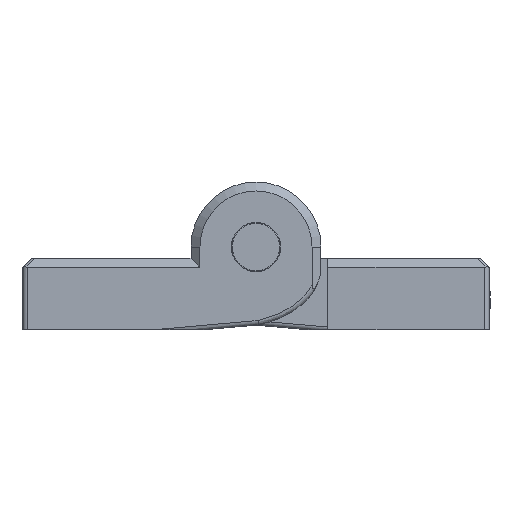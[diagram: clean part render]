
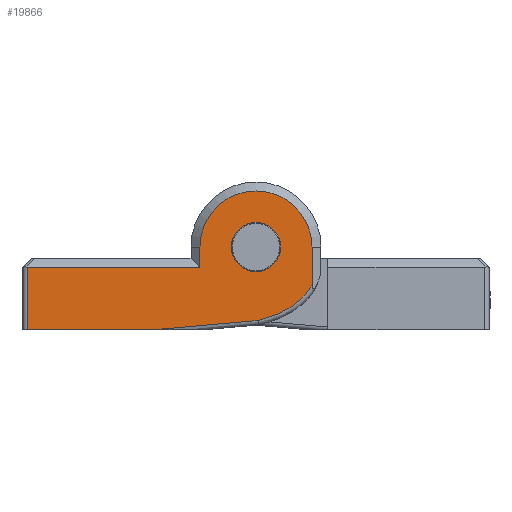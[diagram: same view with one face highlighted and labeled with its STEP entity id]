
A CAD part, front view. The second image highlights one B-rep face of the part: STEP entity #19866.
In plain terms, the highlighted planar face has unit normal (0, -1, 0).
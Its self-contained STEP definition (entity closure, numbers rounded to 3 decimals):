
#411 = ORIENTED_EDGE ( 'NONE', *, *, #7816, .T. ) ;
#1218 = EDGE_CURVE ( 'NONE', #23892, #16031, #10456, .T. ) ;
#1735 = DIRECTION ( 'NONE',  ( -1., 0., 0. ) ) ;
#1832 = EDGE_CURVE ( 'NONE', #17360, #10569, #11537, .T. ) ;
#2003 = CARTESIAN_POINT ( 'NONE',  ( -23.704, -45., -6.285 ) ) ;
#2100 = VERTEX_POINT ( 'NONE', #7482 ) ;
#2113 = LINE ( 'NONE', #6644, #19933 ) ;
#2803 = VERTEX_POINT ( 'NONE', #14952 ) ;
#3068 = CARTESIAN_POINT ( 'NONE',  ( -26., -45., 1.25 ) ) ;
#4032 = CARTESIAN_POINT ( 'NONE',  ( -22.861, -45., -5.892 ) ) ;
#4202 = DIRECTION ( 'NONE',  ( 0., 0., -1. ) ) ;
#4493 = CARTESIAN_POINT ( 'NONE',  ( -19.75, -45., 1.25 ) ) ;
#4578 = CARTESIAN_POINT ( 'NONE',  ( -25.74, -45., -6.941 ) ) ;
#5073 = DIRECTION ( 'NONE',  ( 0., 0., 1. ) ) ;
#5545 = VERTEX_POINT ( 'NONE', #21345 ) ;
#5679 = CARTESIAN_POINT ( 'NONE',  ( -52., -45., -1. ) ) ;
#6002 = CARTESIAN_POINT ( 'NONE',  ( -26., -45., -1.5 ) ) ;
#6056 = CARTESIAN_POINT ( 'NONE',  ( -21.788, -45., -5.259 ) ) ;
#6096 = AXIS2_PLACEMENT_3D ( 'NONE', #3068, #17045, #5073 ) ;
#6257 = CARTESIAN_POINT ( 'NONE',  ( -26., -45., 1.25 ) ) ;
#6644 = CARTESIAN_POINT ( 'NONE',  ( -52., -45., -8. ) ) ;
#6657 = AXIS2_PLACEMENT_3D ( 'NONE', #21859, #9967, #23805 ) ;
#6753 = VECTOR ( 'NONE', #14538, 1000. ) ;
#7076 = DIRECTION ( 'NONE',  ( 0., -1., 0. ) ) ;
#7100 = VECTOR ( 'NONE', #7319, 1000. ) ;
#7231 = ORIENTED_EDGE ( 'NONE', *, *, #22465, .T. ) ;
#7319 = DIRECTION ( 'NONE',  ( 0., 0., -1. ) ) ;
#7482 = CARTESIAN_POINT ( 'NONE',  ( -19.75, -45., -2.95 ) ) ;
#7601 = ORIENTED_EDGE ( 'NONE', *, *, #22314, .F. ) ;
#7816 = EDGE_CURVE ( 'NONE', #16031, #5545, #2113, .T. ) ;
#8089 = CARTESIAN_POINT ( 'NONE',  ( -20.63, -45., -4.228 ) ) ;
#8634 = DIRECTION ( 'NONE',  ( 0., 0., 1. ) ) ;
#8768 = CARTESIAN_POINT ( 'NONE',  ( -32.25, -45., -1. ) ) ;
#9253 = LINE ( 'NONE', #4493, #14541 ) ;
#9380 = ORIENTED_EDGE ( 'NONE', *, *, #9759, .T. ) ;
#9759 = EDGE_CURVE ( 'NONE', #10569, #10619, #12444, .T. ) ;
#9865 = DIRECTION ( 'NONE',  ( 0., -1., 0. ) ) ;
#9967 = DIRECTION ( 'NONE',  ( 0., -1., 0. ) ) ;
#10098 = CARTESIAN_POINT ( 'NONE',  ( -20.055, -45., -3.493 ) ) ;
#10219 = DIRECTION ( 'NONE',  ( 0., 0., 1. ) ) ;
#10456 = LINE ( 'NONE', #16177, #12338 ) ;
#10569 = VERTEX_POINT ( 'NONE', #10632 ) ;
#10619 = VERTEX_POINT ( 'NONE', #8768 ) ;
#10632 = CARTESIAN_POINT ( 'NONE',  ( -32.25, -45., 1.25 ) ) ;
#10794 = CARTESIAN_POINT ( 'NONE',  ( -25.775, -45., -6.944 ) ) ;
#10998 = PLANE ( 'NONE',  #6096 ) ;
#11537 = CIRCLE ( 'NONE', #19961, 6.25 ) ;
#11560 = CARTESIAN_POINT ( 'NONE',  ( -51.5, -45., -1. ) ) ;
#12059 = VECTOR ( 'NONE', #1735, 1000. ) ;
#12094 = LINE ( 'NONE', #4578, #6753 ) ;
#12101 = CARTESIAN_POINT ( 'NONE',  ( -19.75, -45., -2.95 ) ) ;
#12338 = VECTOR ( 'NONE', #4202, 1000. ) ;
#12444 = LINE ( 'NONE', #17239, #7100 ) ;
#12499 = EDGE_LOOP ( 'NONE', ( #17975, #7601 ) ) ;
#12670 = LINE ( 'NONE', #5679, #12059 ) ;
#13020 = CIRCLE ( 'NONE', #6657, 2.75 ) ;
#13912 = ORIENTED_EDGE ( 'NONE', *, *, #17922, .T. ) ;
#13918 = CARTESIAN_POINT ( 'NONE',  ( -25.775, -45., -6.944 ) ) ;
#14006 = CARTESIAN_POINT ( 'NONE',  ( -24.571, -45., -6.621 ) ) ;
#14094 = VERTEX_POINT ( 'NONE', #6002 ) ;
#14299 = AXIS2_PLACEMENT_3D ( 'NONE', #19034, #7076, #21024 ) ;
#14538 = DIRECTION ( 'NONE',  ( 0.996, 0., 0.089 ) ) ;
#14541 = VECTOR ( 'NONE', #8634, 1000. ) ;
#14693 = EDGE_CURVE ( 'NONE', #20215, #2100, #25198, .T. ) ;
#14952 = CARTESIAN_POINT ( 'NONE',  ( -26., -45., 4. ) ) ;
#15071 = EDGE_CURVE ( 'NONE', #14094, #2803, #16354, .T. ) ;
#15481 = CARTESIAN_POINT ( 'NONE',  ( -19.75, -45., 1.25 ) ) ;
#15997 = CARTESIAN_POINT ( 'NONE',  ( -23.42, -45., -6.162 ) ) ;
#16031 = VERTEX_POINT ( 'NONE', #16706 ) ;
#16177 = CARTESIAN_POINT ( 'NONE',  ( -51.5, -45., -8. ) ) ;
#16354 = CIRCLE ( 'NONE', #14299, 2.75 ) ;
#16706 = CARTESIAN_POINT ( 'NONE',  ( -51.5, -45., -8. ) ) ;
#17045 = DIRECTION ( 'NONE',  ( 0., -1., 0. ) ) ;
#17239 = CARTESIAN_POINT ( 'NONE',  ( -32.25, -45., 0. ) ) ;
#17360 = VERTEX_POINT ( 'NONE', #15481 ) ;
#17534 = FACE_BOUND ( 'NONE', #12499, .T. ) ;
#17922 = EDGE_CURVE ( 'NONE', #10619, #23892, #12670, .T. ) ;
#17975 = ORIENTED_EDGE ( 'NONE', *, *, #15071, .F. ) ;
#17979 = CARTESIAN_POINT ( 'NONE',  ( -22.586, -45., -5.743 ) ) ;
#18005 = ORIENTED_EDGE ( 'NONE', *, *, #14693, .T. ) ;
#18173 = EDGE_LOOP ( 'NONE', ( #7231, #18005, #24034, #23888, #9380, #13912, #22437, #411 ) ) ;
#18551 = EDGE_CURVE ( 'NONE', #2100, #17360, #9253, .T. ) ;
#19034 = CARTESIAN_POINT ( 'NONE',  ( -26., -45., 1.25 ) ) ;
#19866 = ADVANCED_FACE ( 'NONE', ( #22792, #17534 ), #10998, .T. ) ;
#19933 = VECTOR ( 'NONE', #20599, 1000. ) ;
#19961 = AXIS2_PLACEMENT_3D ( 'NONE', #6257, #9865, #10219 ) ;
#20007 = CARTESIAN_POINT ( 'NONE',  ( -21.293, -45., -4.888 ) ) ;
#20215 = VERTEX_POINT ( 'NONE', #10794 ) ;
#20599 = DIRECTION ( 'NONE',  ( 1., 0., 0. ) ) ;
#21024 = DIRECTION ( 'NONE',  ( 0., 0., 1. ) ) ;
#21345 = CARTESIAN_POINT ( 'NONE',  ( -37.643, -45., -8. ) ) ;
#21859 = CARTESIAN_POINT ( 'NONE',  ( -26., -45., 1.25 ) ) ;
#21990 = CARTESIAN_POINT ( 'NONE',  ( -20.424, -45., -3.992 ) ) ;
#22314 = EDGE_CURVE ( 'NONE', #2803, #14094, #13020, .T. ) ;
#22437 = ORIENTED_EDGE ( 'NONE', *, *, #1218, .T. ) ;
#22465 = EDGE_CURVE ( 'NONE', #5545, #20215, #12094, .T. ) ;
#22792 = FACE_OUTER_BOUND ( 'NONE', #18173, .T. ) ;
#23805 = DIRECTION ( 'NONE',  ( 0., 0., 1. ) ) ;
#23857 = CARTESIAN_POINT ( 'NONE',  ( -25.169, -45., -6.802 ) ) ;
#23888 = ORIENTED_EDGE ( 'NONE', *, *, #1832, .T. ) ;
#23892 = VERTEX_POINT ( 'NONE', #11560 ) ;
#23941 = CARTESIAN_POINT ( 'NONE',  ( -19.891, -45., -3.23 ) ) ;
#24034 = ORIENTED_EDGE ( 'NONE', *, *, #18551, .T. ) ;
#25198 = B_SPLINE_CURVE_WITH_KNOTS ( 'NONE', 3,
 ( #13918, #23857, #14006, #2003, #15997, #4032, #17979, #6056, #20007, #8089, #21990, #10098, #23941, #12101 ),
 .UNSPECIFIED., .F., .F.,
 ( 4, 2, 2, 2, 2, 2, 4 ),
 ( 0., 0.002, 0.003, 0.004, 0.006, 0.007, 0.007 ),
 .UNSPECIFIED. ) ;
